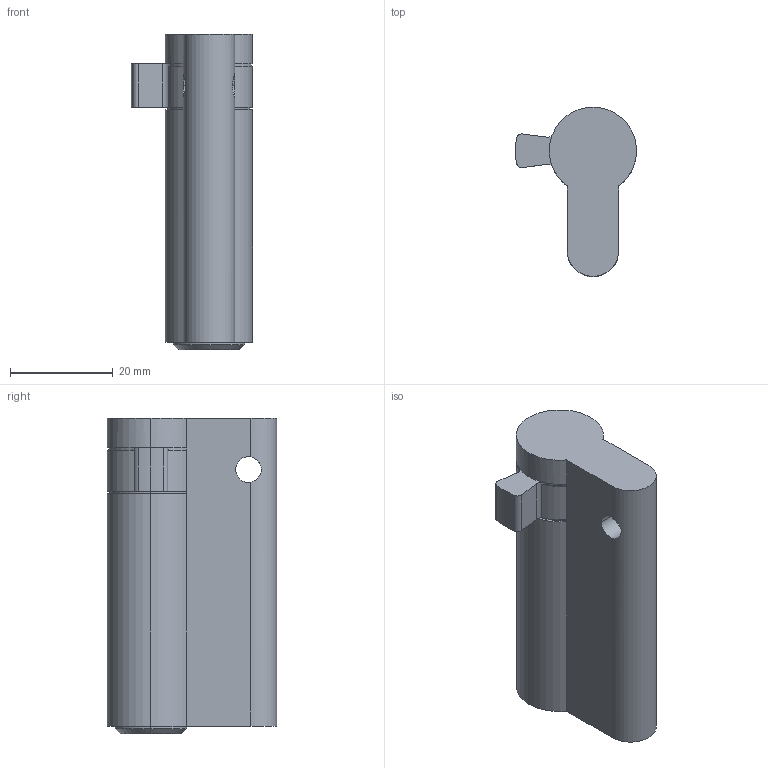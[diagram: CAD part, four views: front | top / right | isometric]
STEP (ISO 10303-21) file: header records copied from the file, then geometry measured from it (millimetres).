
FILE_DESCRIPTION (( 'STEP AP214' ), '1' );
FILE_NAME ('TPL-H-EU-510-R 29Oct2024.STEP', '2024-10-29T22:15:16', ( '' ), ( '' ), 'SwSTEP 2.0', 'SolidWorks 2023', '' );
FILE_SCHEMA (( 'AUTOMOTIVE_DESIGN' ));
Length unit declared in the file: millimetre
Products named in the file (1): TPL-H-EU-510-R 29Oct2024
Bounding box: 23.6 x 33 x 61.5 mm (x, y, z)
Volume: 22894.5 mm3; surface area: 6649.6 mm2
Topology: 1 solids, 1 shells, 46 faces, 127 edges, 80 vertices
Faces by surface type: cylinder 27, plane 16, cone 3
Entity records: 1575 total; most frequent: CARTESIAN_POINT 324, DIRECTION 278, ORIENTED_EDGE 254, EDGE_CURVE 127, AXIS2_PLACEMENT_3D 110, VERTEX_POINT 80, CIRCLE 63, VECTOR 58
